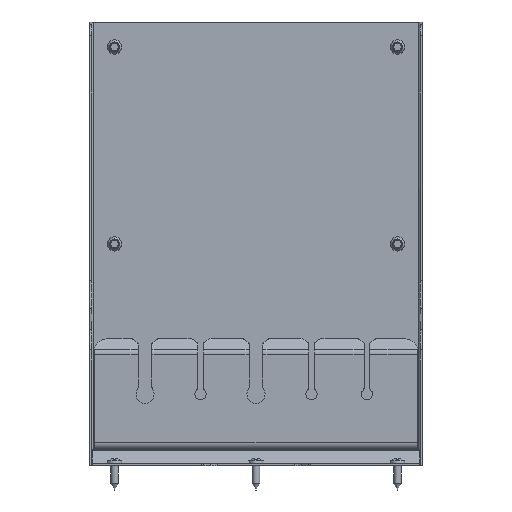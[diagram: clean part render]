
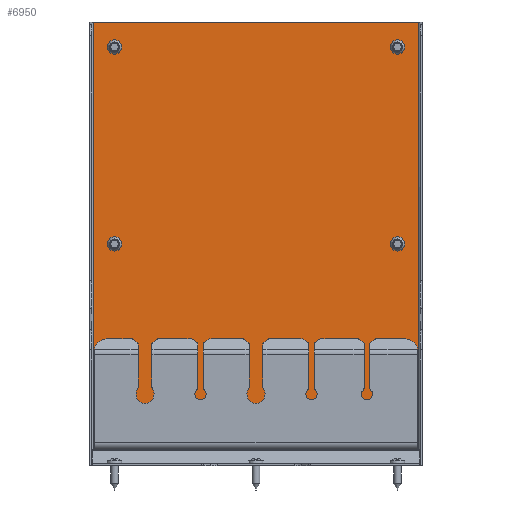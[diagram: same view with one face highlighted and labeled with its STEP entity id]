
A CAD part, front view. The second image highlights one B-rep face of the part: STEP entity #6950.
In plain terms, the highlighted planar face has unit normal (0, -1, 0).
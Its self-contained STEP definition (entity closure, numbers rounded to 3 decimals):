
#41 = CIRCLE ( 'NONE', #14355, 3.25 ) ;
#107 = CARTESIAN_POINT ( 'NONE',  ( -102., -20.6, 14.75 ) ) ;
#171 = EDGE_CURVE ( 'NONE', #14584, #14584, #10747, .T. ) ;
#219 = FACE_BOUND ( 'NONE', #9196, .T. ) ;
#381 = FACE_OUTER_BOUND ( 'NONE', #7504, .T. ) ;
#427 = VERTEX_POINT ( 'NONE', #972 ) ;
#499 = ORIENTED_EDGE ( 'NONE', *, *, #171, .F. ) ;
#813 = VECTOR ( 'NONE', #14637, 1000. ) ;
#919 = EDGE_LOOP ( 'NONE', ( #6867 ) ) ;
#926 = ORIENTED_EDGE ( 'NONE', *, *, #12947, .F. ) ;
#972 = CARTESIAN_POINT ( 'NONE',  ( -116.5, -20.6, 3.5 ) ) ;
#1115 = DIRECTION ( 'NONE',  ( 1., 0., 0. ) ) ;
#1199 = EDGE_CURVE ( 'NONE', #1274, #427, #8249, .T. ) ;
#1274 = VERTEX_POINT ( 'NONE', #6110 ) ;
#1296 = EDGE_LOOP ( 'NONE', ( #10186 ) ) ;
#1365 = DIRECTION ( 'NONE',  ( 0., -1., 0. ) ) ;
#1411 = LINE ( 'NONE', #15280, #3917 ) ;
#2023 = CARTESIAN_POINT ( 'NONE',  ( 120., -20.6, 3.5 ) ) ;
#2368 = AXIS2_PLACEMENT_3D ( 'NONE', #15529, #5298, #15695 ) ;
#2444 = VECTOR ( 'NONE', #16216, 1000. ) ;
#2565 = DIRECTION ( 'NONE',  ( 0., -1., 0. ) ) ;
#2612 = LINE ( 'NONE', #11909, #4471 ) ;
#2644 = VERTEX_POINT ( 'NONE', #5363 ) ;
#2907 = CARTESIAN_POINT ( 'NONE',  ( 102., -20.6, 160. ) ) ;
#3113 = EDGE_CURVE ( 'NONE', #10092, #11308, #9879, .T. ) ;
#3161 = VERTEX_POINT ( 'NONE', #13365 ) ;
#3202 = ORIENTED_EDGE ( 'NONE', *, *, #3113, .T. ) ;
#3699 = DIRECTION ( 'NONE',  ( 0., -1., 0. ) ) ;
#3700 = DIRECTION ( 'NONE',  ( 0., 0., 1. ) ) ;
#3725 = CIRCLE ( 'NONE', #8865, 3.25 ) ;
#3859 = CIRCLE ( 'NONE', #13307, 3.25 ) ;
#3917 = VECTOR ( 'NONE', #3700, 1000. ) ;
#4213 = DIRECTION ( 'NONE',  ( 0., -1., 0. ) ) ;
#4287 = EDGE_CURVE ( 'NONE', #2644, #3161, #12418, .T. ) ;
#4414 = ORIENTED_EDGE ( 'NONE', *, *, #1199, .F. ) ;
#4471 = VECTOR ( 'NONE', #6667, 1000. ) ;
#4960 = FACE_BOUND ( 'NONE', #919, .T. ) ;
#4966 = DIRECTION ( 'NONE',  ( 0., 0., -1. ) ) ;
#5014 = VERTEX_POINT ( 'NONE', #6277 ) ;
#5044 = FACE_BOUND ( 'NONE', #9221, .T. ) ;
#5058 = EDGE_CURVE ( 'NONE', #1274, #16570, #8643, .T. ) ;
#5066 = EDGE_CURVE ( 'NONE', #11308, #10836, #7623, .T. ) ;
#5114 = CARTESIAN_POINT ( 'NONE',  ( 116.5, -20.6, 0. ) ) ;
#5180 = EDGE_CURVE ( 'NONE', #6102, #6102, #8563, .T. ) ;
#5298 = DIRECTION ( 'NONE',  ( 0., -1., 0. ) ) ;
#5363 = CARTESIAN_POINT ( 'NONE',  ( 116.8, -20.6, 3.5 ) ) ;
#5596 = VECTOR ( 'NONE', #15064, 1000. ) ;
#6041 = CARTESIAN_POINT ( 'NONE',  ( -116.8, -20.6, 3.5 ) ) ;
#6102 = VERTEX_POINT ( 'NONE', #13567 ) ;
#6110 = CARTESIAN_POINT ( 'NONE',  ( -116.5, -20.6, 3.2 ) ) ;
#6277 = CARTESIAN_POINT ( 'NONE',  ( 102., -20.6, 14.75 ) ) ;
#6352 = CARTESIAN_POINT ( 'NONE',  ( 116.5, -20.6, 3.2 ) ) ;
#6667 = DIRECTION ( 'NONE',  ( -1., 0., 0. ) ) ;
#6867 = ORIENTED_EDGE ( 'NONE', *, *, #7458, .F. ) ;
#6879 = CARTESIAN_POINT ( 'NONE',  ( 102., -20.6, 298.75 ) ) ;
#6950 = ADVANCED_FACE ( 'NONE', ( #4960, #5044, #9098, #219, #10381, #13157, #381 ), #11805, .T. ) ;
#7133 = CARTESIAN_POINT ( 'NONE',  ( -116.5, -20.6, 0. ) ) ;
#7206 = DIRECTION ( 'NONE',  ( 0., -1., 0. ) ) ;
#7458 = EDGE_CURVE ( 'NONE', #11202, #11202, #3725, .T. ) ;
#7504 = EDGE_LOOP ( 'NONE', ( #4414, #15928, #10146, #15605, #10417, #3202, #13127, #11712 ) ) ;
#7609 = DIRECTION ( 'NONE',  ( 0., 0., -1. ) ) ;
#7623 = LINE ( 'NONE', #10008, #5596 ) ;
#7694 = CARTESIAN_POINT ( 'NONE',  ( -102., -20.6, 18. ) ) ;
#8023 = DIRECTION ( 'NONE',  ( 0., 0., -1. ) ) ;
#8025 = VECTOR ( 'NONE', #13534, 1000. ) ;
#8249 = LINE ( 'NONE', #7133, #14799 ) ;
#8471 = CIRCLE ( 'NONE', #13334, 3.25 ) ;
#8562 = CARTESIAN_POINT ( 'NONE',  ( -102., -20.6, 302. ) ) ;
#8563 = CIRCLE ( 'NONE', #9927, 3.25 ) ;
#8643 = LINE ( 'NONE', #6352, #13171 ) ;
#8865 = AXIS2_PLACEMENT_3D ( 'NONE', #2907, #2565, #14410 ) ;
#8984 = CARTESIAN_POINT ( 'NONE',  ( -102., -20.6, 298.75 ) ) ;
#9098 = FACE_BOUND ( 'NONE', #14154, .T. ) ;
#9133 = DIRECTION ( 'NONE',  ( 0., -1., 0. ) ) ;
#9149 = CARTESIAN_POINT ( 'NONE',  ( -102., -20.6, 160. ) ) ;
#9196 = EDGE_LOOP ( 'NONE', ( #499 ) ) ;
#9221 = EDGE_LOOP ( 'NONE', ( #12751 ) ) ;
#9361 = EDGE_CURVE ( 'NONE', #3161, #16570, #13600, .T. ) ;
#9473 = ORIENTED_EDGE ( 'NONE', *, *, #10383, .F. ) ;
#9879 = LINE ( 'NONE', #14943, #813 ) ;
#9927 = AXIS2_PLACEMENT_3D ( 'NONE', #9149, #1365, #10514 ) ;
#10008 = CARTESIAN_POINT ( 'NONE',  ( -116.8, -20.6, 0. ) ) ;
#10092 = VERTEX_POINT ( 'NONE', #10120 ) ;
#10094 = DIRECTION ( 'NONE',  ( 0., 0., -1. ) ) ;
#10120 = CARTESIAN_POINT ( 'NONE',  ( 116.8, -20.6, 320. ) ) ;
#10146 = ORIENTED_EDGE ( 'NONE', *, *, #9361, .F. ) ;
#10186 = ORIENTED_EDGE ( 'NONE', *, *, #5180, .F. ) ;
#10381 = FACE_BOUND ( 'NONE', #1296, .T. ) ;
#10383 = EDGE_CURVE ( 'NONE', #5014, #5014, #41, .T. ) ;
#10417 = ORIENTED_EDGE ( 'NONE', *, *, #13792, .T. ) ;
#10514 = DIRECTION ( 'NONE',  ( 0., 0., -1. ) ) ;
#10747 = CIRCLE ( 'NONE', #14249, 3.25 ) ;
#10836 = VERTEX_POINT ( 'NONE', #6041 ) ;
#10877 = DIRECTION ( 'NONE',  ( 0., 0., 1. ) ) ;
#11202 = VERTEX_POINT ( 'NONE', #16342 ) ;
#11308 = VERTEX_POINT ( 'NONE', #16182 ) ;
#11708 = CARTESIAN_POINT ( 'NONE',  ( 116.5, -20.6, 3.2 ) ) ;
#11712 = ORIENTED_EDGE ( 'NONE', *, *, #14556, .F. ) ;
#11789 = EDGE_CURVE ( 'NONE', #12877, #12877, #3859, .T. ) ;
#11805 = PLANE ( 'NONE',  #2368 ) ;
#11909 = CARTESIAN_POINT ( 'NONE',  ( 120., -20.6, 3.5 ) ) ;
#12407 = CARTESIAN_POINT ( 'NONE',  ( 102., -20.6, 18. ) ) ;
#12418 = LINE ( 'NONE', #2023, #8025 ) ;
#12751 = ORIENTED_EDGE ( 'NONE', *, *, #11789, .F. ) ;
#12877 = VERTEX_POINT ( 'NONE', #107 ) ;
#12947 = EDGE_CURVE ( 'NONE', #16681, #16681, #8471, .T. ) ;
#13050 = EDGE_LOOP ( 'NONE', ( #926 ) ) ;
#13127 = ORIENTED_EDGE ( 'NONE', *, *, #5066, .T. ) ;
#13157 = FACE_BOUND ( 'NONE', #13050, .T. ) ;
#13171 = VECTOR ( 'NONE', #1115, 1000. ) ;
#13307 = AXIS2_PLACEMENT_3D ( 'NONE', #7694, #9133, #7609 ) ;
#13333 = CARTESIAN_POINT ( 'NONE',  ( 102., -20.6, 302. ) ) ;
#13334 = AXIS2_PLACEMENT_3D ( 'NONE', #8562, #7206, #10094 ) ;
#13365 = CARTESIAN_POINT ( 'NONE',  ( 116.5, -20.6, 3.5 ) ) ;
#13534 = DIRECTION ( 'NONE',  ( -1., 0., 0. ) ) ;
#13567 = CARTESIAN_POINT ( 'NONE',  ( -102., -20.6, 156.75 ) ) ;
#13600 = LINE ( 'NONE', #5114, #2444 ) ;
#13792 = EDGE_CURVE ( 'NONE', #2644, #10092, #1411, .T. ) ;
#14154 = EDGE_LOOP ( 'NONE', ( #9473 ) ) ;
#14249 = AXIS2_PLACEMENT_3D ( 'NONE', #13333, #4213, #8023 ) ;
#14355 = AXIS2_PLACEMENT_3D ( 'NONE', #12407, #3699, #4966 ) ;
#14410 = DIRECTION ( 'NONE',  ( 0., 0., -1. ) ) ;
#14556 = EDGE_CURVE ( 'NONE', #427, #10836, #2612, .T. ) ;
#14584 = VERTEX_POINT ( 'NONE', #6879 ) ;
#14637 = DIRECTION ( 'NONE',  ( -1., 0., 0. ) ) ;
#14799 = VECTOR ( 'NONE', #10877, 1000. ) ;
#14943 = CARTESIAN_POINT ( 'NONE',  ( 120., -20.6, 320. ) ) ;
#15064 = DIRECTION ( 'NONE',  ( 0., 0., -1. ) ) ;
#15280 = CARTESIAN_POINT ( 'NONE',  ( 116.8, -20.6, 320. ) ) ;
#15529 = CARTESIAN_POINT ( 'NONE',  ( 120., -20.6, 0. ) ) ;
#15605 = ORIENTED_EDGE ( 'NONE', *, *, #4287, .F. ) ;
#15695 = DIRECTION ( 'NONE',  ( 0., 0., -1. ) ) ;
#15928 = ORIENTED_EDGE ( 'NONE', *, *, #5058, .T. ) ;
#16182 = CARTESIAN_POINT ( 'NONE',  ( -116.8, -20.6, 320. ) ) ;
#16216 = DIRECTION ( 'NONE',  ( 0., 0., -1. ) ) ;
#16342 = CARTESIAN_POINT ( 'NONE',  ( 102., -20.6, 156.75 ) ) ;
#16570 = VERTEX_POINT ( 'NONE', #11708 ) ;
#16681 = VERTEX_POINT ( 'NONE', #8984 ) ;
